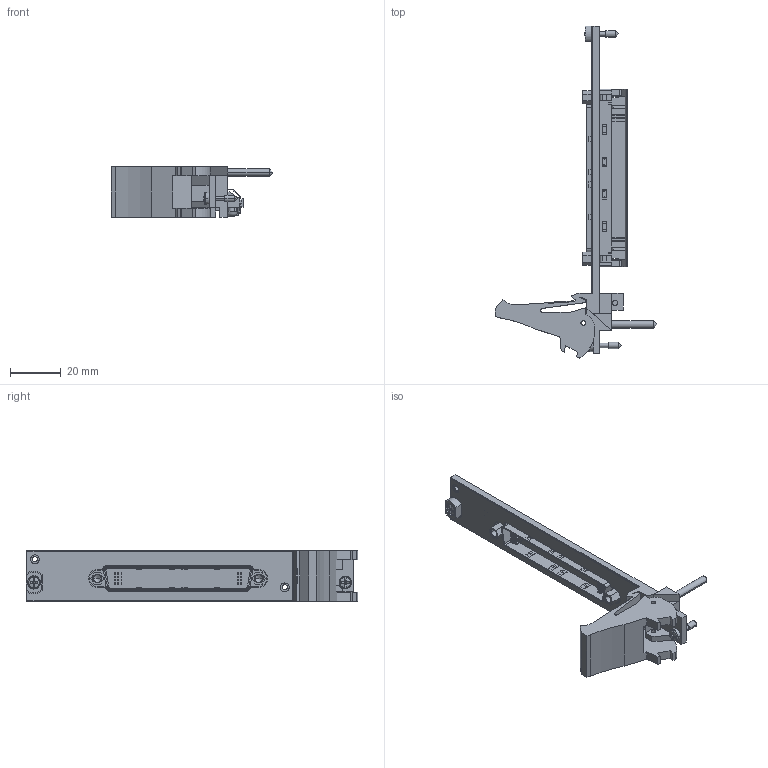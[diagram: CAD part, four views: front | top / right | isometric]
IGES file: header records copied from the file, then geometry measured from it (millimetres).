
Start section:  PTC IGES file: cu_pxi-2576.igs
Global section: file name: cu_pxi-2576.igs; native system: Pro/ENGINEER by Parametric Technology Corporation; preprocessor: 2006080; author: jjorden; organization: Unknown; date: 090917.085758; units: inch
Bounding box: 63.53 x 130.5 x 20.02 mm (x, y, z)
Surface area: 15935.9 mm2 (no closed solid volume)
Topology: 0 solids, 0 shells, 1025 faces, 5376 edges, 5364 vertices
Faces by surface type: bspline 786, revolution 239
